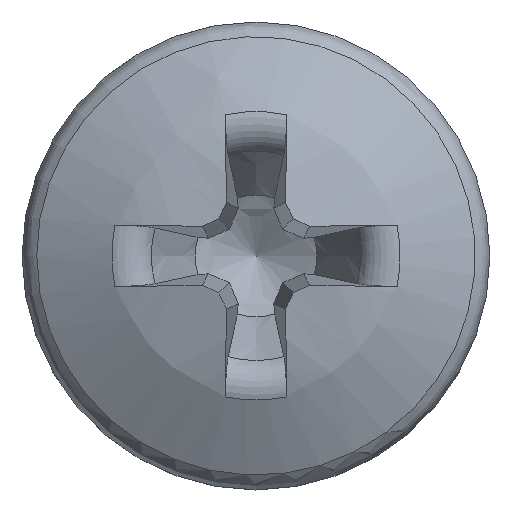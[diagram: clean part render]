
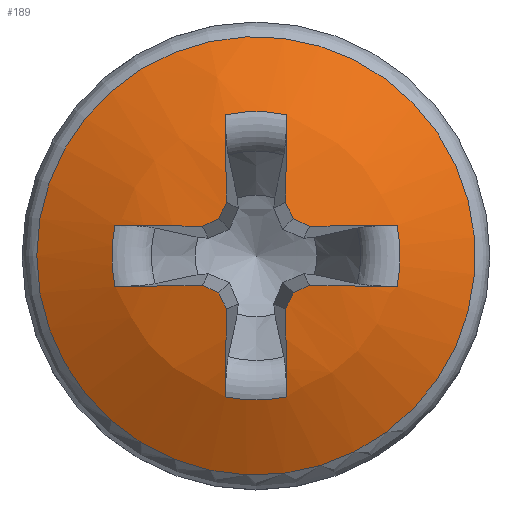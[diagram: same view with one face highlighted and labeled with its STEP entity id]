
A CAD part, top view. The second image highlights one B-rep face of the part: STEP entity #189.
In plain terms, the highlighted spherical face has radius 7.798 mm.
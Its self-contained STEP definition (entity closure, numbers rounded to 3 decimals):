
#152=SPHERICAL_SURFACE('',#1085,7.798);
#163=FACE_BOUND('',#312,.T.);
#164=FACE_BOUND('',#313,.T.);
#189=ADVANCED_FACE('',(#163,#164),#152,.T.);
#312=EDGE_LOOP('',(#447));
#313=EDGE_LOOP('',(#448,#449,#450,#451,#452,#453,#454,#455,#456,#457,#458,
#459,#460,#461,#462,#463,#464,#465,#466,#467));
#384=CIRCLE('',#1064,4.124);
#385=CIRCLE('',#1065,7.796);
#386=CIRCLE('',#1066,2.715);
#387=CIRCLE('',#1067,7.796);
#388=CIRCLE('',#1068,7.796);
#389=CIRCLE('',#1069,7.796);
#390=CIRCLE('',#1070,7.796);
#391=CIRCLE('',#1071,2.715);
#392=CIRCLE('',#1072,7.796);
#393=CIRCLE('',#1073,7.796);
#394=CIRCLE('',#1074,7.796);
#395=CIRCLE('',#1075,7.796);
#396=CIRCLE('',#1076,2.715);
#397=CIRCLE('',#1077,7.796);
#398=CIRCLE('',#1078,7.796);
#399=CIRCLE('',#1079,7.796);
#400=CIRCLE('',#1080,7.796);
#401=CIRCLE('',#1081,2.715);
#402=CIRCLE('',#1082,7.796);
#403=CIRCLE('',#1083,7.796);
#404=CIRCLE('',#1084,7.796);
#447=ORIENTED_EDGE('',*,*,#851,.T.);
#448=ORIENTED_EDGE('',*,*,#852,.F.);
#449=ORIENTED_EDGE('',*,*,#853,.T.);
#450=ORIENTED_EDGE('',*,*,#854,.F.);
#451=ORIENTED_EDGE('',*,*,#855,.F.);
#452=ORIENTED_EDGE('',*,*,#856,.F.);
#453=ORIENTED_EDGE('',*,*,#857,.F.);
#454=ORIENTED_EDGE('',*,*,#858,.T.);
#455=ORIENTED_EDGE('',*,*,#859,.F.);
#456=ORIENTED_EDGE('',*,*,#860,.F.);
#457=ORIENTED_EDGE('',*,*,#861,.F.);
#458=ORIENTED_EDGE('',*,*,#862,.F.);
#459=ORIENTED_EDGE('',*,*,#863,.T.);
#460=ORIENTED_EDGE('',*,*,#864,.F.);
#461=ORIENTED_EDGE('',*,*,#865,.F.);
#462=ORIENTED_EDGE('',*,*,#866,.F.);
#463=ORIENTED_EDGE('',*,*,#867,.F.);
#464=ORIENTED_EDGE('',*,*,#868,.T.);
#465=ORIENTED_EDGE('',*,*,#869,.F.);
#466=ORIENTED_EDGE('',*,*,#870,.F.);
#467=ORIENTED_EDGE('',*,*,#871,.F.);
#749=VERTEX_POINT('',#2245);
#750=VERTEX_POINT('',#2247);
#751=VERTEX_POINT('',#2248);
#752=VERTEX_POINT('',#2250);
#753=VERTEX_POINT('',#2252);
#754=VERTEX_POINT('',#2254);
#755=VERTEX_POINT('',#2256);
#756=VERTEX_POINT('',#2258);
#757=VERTEX_POINT('',#2260);
#758=VERTEX_POINT('',#2262);
#759=VERTEX_POINT('',#2264);
#760=VERTEX_POINT('',#2266);
#761=VERTEX_POINT('',#2268);
#762=VERTEX_POINT('',#2270);
#763=VERTEX_POINT('',#2272);
#764=VERTEX_POINT('',#2274);
#765=VERTEX_POINT('',#2276);
#766=VERTEX_POINT('',#2278);
#767=VERTEX_POINT('',#2280);
#768=VERTEX_POINT('',#2282);
#769=VERTEX_POINT('',#2284);
#851=EDGE_CURVE('',#749,#749,#384,.T.);
#852=EDGE_CURVE('',#750,#751,#385,.T.);
#853=EDGE_CURVE('',#750,#752,#386,.T.);
#854=EDGE_CURVE('',#753,#752,#387,.T.);
#855=EDGE_CURVE('',#754,#753,#388,.T.);
#856=EDGE_CURVE('',#755,#754,#389,.T.);
#857=EDGE_CURVE('',#756,#755,#390,.T.);
#858=EDGE_CURVE('',#756,#757,#391,.T.);
#859=EDGE_CURVE('',#758,#757,#392,.T.);
#860=EDGE_CURVE('',#759,#758,#393,.T.);
#861=EDGE_CURVE('',#760,#759,#394,.T.);
#862=EDGE_CURVE('',#761,#760,#395,.T.);
#863=EDGE_CURVE('',#761,#762,#396,.T.);
#864=EDGE_CURVE('',#763,#762,#397,.T.);
#865=EDGE_CURVE('',#764,#763,#398,.T.);
#866=EDGE_CURVE('',#765,#764,#399,.T.);
#867=EDGE_CURVE('',#766,#765,#400,.T.);
#868=EDGE_CURVE('',#766,#767,#401,.T.);
#869=EDGE_CURVE('',#768,#767,#402,.T.);
#870=EDGE_CURVE('',#769,#768,#403,.T.);
#871=EDGE_CURVE('',#751,#769,#404,.T.);
#1064=AXIS2_PLACEMENT_3D('',#2244,#1149,#1150);
#1065=AXIS2_PLACEMENT_3D('',#2246,#1151,#1152);
#1066=AXIS2_PLACEMENT_3D('',#2249,#1153,#1154);
#1067=AXIS2_PLACEMENT_3D('',#2251,#1155,#1156);
#1068=AXIS2_PLACEMENT_3D('',#2253,#1157,#1158);
#1069=AXIS2_PLACEMENT_3D('',#2255,#1159,#1160);
#1070=AXIS2_PLACEMENT_3D('',#2257,#1161,#1162);
#1071=AXIS2_PLACEMENT_3D('',#2259,#1163,#1164);
#1072=AXIS2_PLACEMENT_3D('',#2261,#1165,#1166);
#1073=AXIS2_PLACEMENT_3D('',#2263,#1167,#1168);
#1074=AXIS2_PLACEMENT_3D('',#2265,#1169,#1170);
#1075=AXIS2_PLACEMENT_3D('',#2267,#1171,#1172);
#1076=AXIS2_PLACEMENT_3D('',#2269,#1173,#1174);
#1077=AXIS2_PLACEMENT_3D('',#2271,#1175,#1176);
#1078=AXIS2_PLACEMENT_3D('',#2273,#1177,#1178);
#1079=AXIS2_PLACEMENT_3D('',#2275,#1179,#1180);
#1080=AXIS2_PLACEMENT_3D('',#2277,#1181,#1182);
#1081=AXIS2_PLACEMENT_3D('',#2279,#1183,#1184);
#1082=AXIS2_PLACEMENT_3D('',#2281,#1185,#1186);
#1083=AXIS2_PLACEMENT_3D('',#2283,#1187,#1188);
#1084=AXIS2_PLACEMENT_3D('',#2285,#1189,#1190);
#1085=AXIS2_PLACEMENT_3D('',#2286,#1191,#1192);
#1149=DIRECTION('',(0.,0.,1.));
#1150=DIRECTION('',(-1.,0.,0.));
#1151=DIRECTION('',(-0.035,0.996,0.087));
#1152=DIRECTION('',(0.,-0.087,0.996));
#1153=DIRECTION('',(0.,0.,-1.));
#1154=DIRECTION('',(-1.,0.,0.));
#1155=DIRECTION('',(-0.035,-0.996,0.087));
#1156=DIRECTION('',(0.,-0.087,-0.996));
#1157=DIRECTION('',(0.42,-0.902,0.1));
#1158=DIRECTION('',(0.906,0.423,0.));
#1159=DIRECTION('',(0.902,-0.42,0.1));
#1160=DIRECTION('',(0.423,0.906,0.));
#1161=DIRECTION('',(0.996,0.035,0.087));
#1162=DIRECTION('',(0.087,0.,-0.996));
#1163=DIRECTION('',(0.,0.,-1.));
#1164=DIRECTION('',(-1.,0.,0.));
#1165=DIRECTION('',(-0.996,0.035,0.087));
#1166=DIRECTION('',(0.087,0.,0.996));
#1167=DIRECTION('',(-0.902,-0.42,0.1));
#1168=DIRECTION('',(0.423,-0.906,0.));
#1169=DIRECTION('',(-0.42,-0.902,0.1));
#1170=DIRECTION('',(0.906,-0.423,0.));
#1171=DIRECTION('',(0.035,-0.996,0.087));
#1172=DIRECTION('',(0.,-0.087,-0.996));
#1173=DIRECTION('',(0.,0.,-1.));
#1174=DIRECTION('',(-1.,0.,0.));
#1175=DIRECTION('',(0.035,0.996,0.087));
#1176=DIRECTION('',(0.,-0.087,0.996));
#1177=DIRECTION('',(-0.42,0.902,0.1));
#1178=DIRECTION('',(-0.906,-0.423,0.));
#1179=DIRECTION('',(-0.902,0.42,0.1));
#1180=DIRECTION('',(-0.423,-0.906,0.));
#1181=DIRECTION('',(-0.996,-0.035,0.087));
#1182=DIRECTION('',(0.087,0.,0.996));
#1183=DIRECTION('',(0.,0.,-1.));
#1184=DIRECTION('',(-1.,0.,0.));
#1185=DIRECTION('',(0.996,-0.035,0.087));
#1186=DIRECTION('',(0.087,0.,-0.996));
#1187=DIRECTION('',(0.902,0.42,0.1));
#1188=DIRECTION('',(-0.423,0.906,0.));
#1189=DIRECTION('',(0.42,0.902,0.1));
#1190=DIRECTION('',(-0.906,0.423,0.));
#1191=DIRECTION('',(0.,0.,1.));
#1192=DIRECTION('',(0.,1.,0.));
#2244=CARTESIAN_POINT('',(0.,0.,2.22));
#2245=CARTESIAN_POINT('',(-4.124,0.,2.22));
#2246=CARTESIAN_POINT('',(-0.005,0.156,-4.384));
#2247=CARTESIAN_POINT('',(-2.653,-0.575,2.912));
#2248=CARTESIAN_POINT('',(-1.009,-0.553,3.315));
#2249=CARTESIAN_POINT('',(0.,0.,2.912));
#2250=CARTESIAN_POINT('',(-2.653,0.575,2.912));
#2251=CARTESIAN_POINT('',(-0.005,-0.156,-4.384));
#2252=CARTESIAN_POINT('',(-1.009,0.553,3.315));
#2253=CARTESIAN_POINT('',(-0.063,0.135,-4.413));
#2254=CARTESIAN_POINT('',(-0.699,0.699,3.337));
#2255=CARTESIAN_POINT('',(-0.135,0.063,-4.413));
#2256=CARTESIAN_POINT('',(-0.553,1.009,3.315));
#2257=CARTESIAN_POINT('',(0.156,0.005,-4.384));
#2258=CARTESIAN_POINT('',(-0.575,2.653,2.912));
#2259=CARTESIAN_POINT('',(0.,0.,2.912));
#2260=CARTESIAN_POINT('',(0.575,2.653,2.912));
#2261=CARTESIAN_POINT('',(-0.156,0.005,-4.384));
#2262=CARTESIAN_POINT('',(0.553,1.009,3.315));
#2263=CARTESIAN_POINT('',(0.135,0.063,-4.413));
#2264=CARTESIAN_POINT('',(0.699,0.699,3.337));
#2265=CARTESIAN_POINT('',(0.063,0.135,-4.413));
#2266=CARTESIAN_POINT('',(1.009,0.553,3.315));
#2267=CARTESIAN_POINT('',(0.005,-0.156,-4.384));
#2268=CARTESIAN_POINT('',(2.653,0.575,2.912));
#2269=CARTESIAN_POINT('',(0.,0.,2.912));
#2270=CARTESIAN_POINT('',(2.653,-0.575,2.912));
#2271=CARTESIAN_POINT('',(0.005,0.156,-4.384));
#2272=CARTESIAN_POINT('',(1.009,-0.553,3.315));
#2273=CARTESIAN_POINT('',(0.063,-0.135,-4.413));
#2274=CARTESIAN_POINT('',(0.699,-0.699,3.337));
#2275=CARTESIAN_POINT('',(0.135,-0.063,-4.413));
#2276=CARTESIAN_POINT('',(0.553,-1.009,3.315));
#2277=CARTESIAN_POINT('',(-0.156,-0.005,-4.384));
#2278=CARTESIAN_POINT('',(0.575,-2.653,2.912));
#2279=CARTESIAN_POINT('',(0.,0.,2.912));
#2280=CARTESIAN_POINT('',(-0.575,-2.653,2.912));
#2281=CARTESIAN_POINT('',(0.156,-0.005,-4.384));
#2282=CARTESIAN_POINT('',(-0.553,-1.009,3.315));
#2283=CARTESIAN_POINT('',(-0.135,-0.063,-4.413));
#2284=CARTESIAN_POINT('',(-0.699,-0.699,3.337));
#2285=CARTESIAN_POINT('',(-0.063,-0.135,-4.413));
#2286=CARTESIAN_POINT('',(0.,0.,-4.398));
